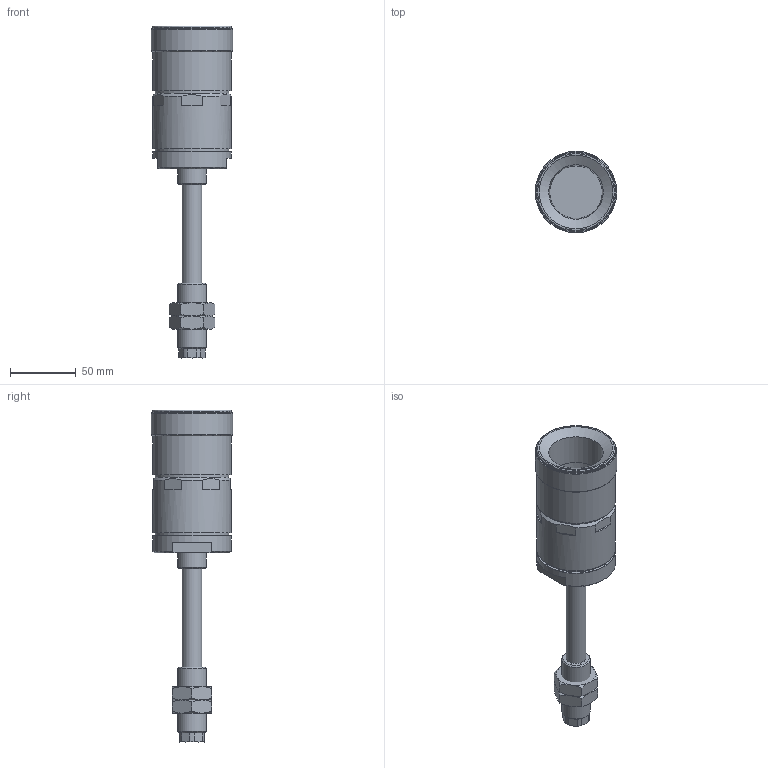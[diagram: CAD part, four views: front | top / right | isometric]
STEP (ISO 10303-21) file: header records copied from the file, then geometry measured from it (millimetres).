
FILE_DESCRIPTION(('STEP AP203'),'1');
FILE_NAME(').stp','2021-06-21T07:58:12',(' '),(' '),'Spatial InterOp 3D',' ',' ');
FILE_SCHEMA(('CONFIG_CONTROL_DESIGN'));
Length unit declared in the file: millimetre
Products named in the file (5): SGC-40W-50-T; SGC-40W-ZZ-T; 取付具; ナット
Assembly tree (4 placements, depth 2):
  SGC-40W-50-T
    SGC-40W-ZZ-T
    取付具
    ナット
    ナット
Bounding box: 62 x 62 x 252.7 mm (x, y, z)
Volume: 210216.5 mm3; surface area: 62979 mm2
Topology: 4 solids, 4 shells, 135 faces, 287 edges, 175 vertices
Faces by surface type: plane 57, cone 45, cylinder 28, torus 5
Full cylindrical faces by diameter (mm): 8 x1, 8.2 x1, 11.7 x1, 13.4 x1, 13.7 x1, 15 x3, 16 x1, 20.376 x2, 22 x2, 40 x1, 41.5 x1, 56 x2, 60 x4, 62 x1
Entity records: 3894 total; most frequent: CARTESIAN_POINT 956, DIRECTION 570, ORIENTED_EDGE 486, AXIS2_PLACEMENT_3D 257, EDGE_CURVE 243, EDGE_LOOP 196, VERTEX_POINT 171, FACE_OUTER_BOUND 162
